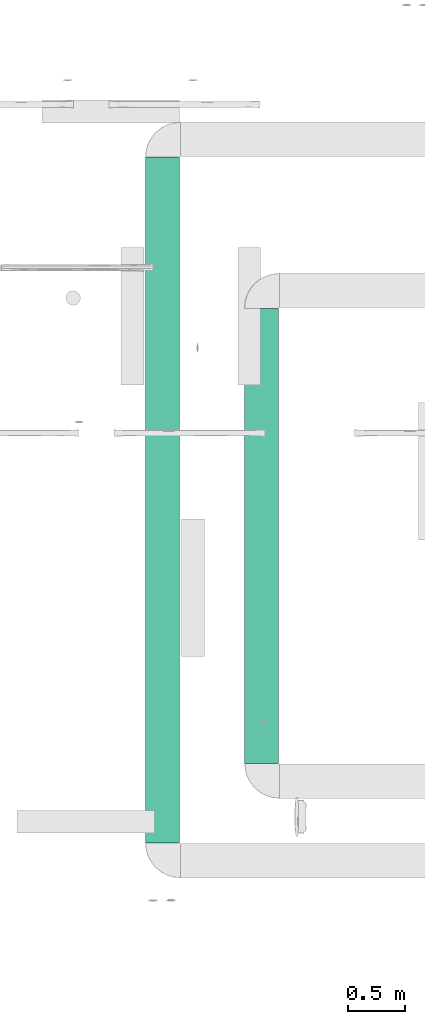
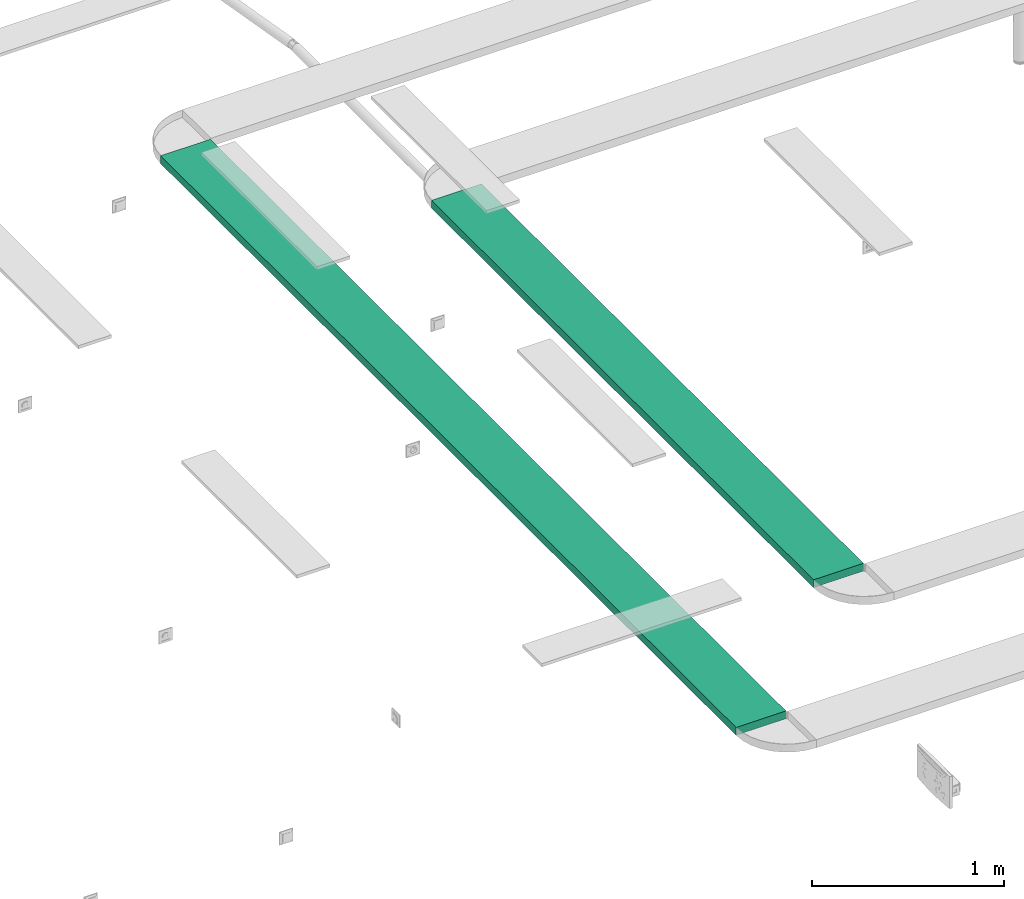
# One storey, part 3 of 153: 2 flow segments.
"""IFC2X3 building model written with IfcOpenShell, lengths in metres."""

from ifc_helpers import new_model, entity, si_unit, converted_unit, derived_unit, direction, frame, frame_2d, origin, origin_2d_with_axis, place, context, subcontext, project, spatial, rectangle, extrude, type_object, element, save


model = new_model("IFC2X3")

# Units and contexts
model_context = context("Model", 3, precision=1e-05, world=origin(), true_north=direction((6.12303176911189e-17, 1.0)))
body_context = subcontext(model_context, "Body", "Model", "MODEL_VIEW")
ifc_project = project(units=[si_unit("LENGTHUNIT", "METRE"), si_unit("AREAUNIT", "SQUARE_METRE"), si_unit("VOLUMEUNIT", "CUBIC_METRE"), converted_unit("PLANEANGLEUNIT", "DEGREE", entity("IfcRatioMeasure", 0.0174532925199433), si_unit("PLANEANGLEUNIT", "RADIAN"), dimensions=[0, 0, 0, 0, 0, 0, 0]), si_unit("MASSUNIT", "GRAM", prefix="KILO"), derived_unit("MASSDENSITYUNIT", [(si_unit("MASSUNIT", "GRAM", prefix="KILO"), 1), (si_unit("LENGTHUNIT", "METRE"), -3)]), si_unit("TIMEUNIT", "SECOND"), si_unit("FREQUENCYUNIT", "HERTZ"), si_unit("THERMODYNAMICTEMPERATUREUNIT", "DEGREE_CELSIUS"), derived_unit("THERMALTRANSMITTANCEUNIT", [(si_unit("MASSUNIT", "GRAM", prefix="KILO"), 1), (si_unit("THERMODYNAMICTEMPERATUREUNIT", "KELVIN"), -1), (si_unit("TIMEUNIT", "SECOND"), -3)]), derived_unit("VOLUMETRICFLOWRATEUNIT", [(si_unit("LENGTHUNIT", "METRE"), 3), (si_unit("TIMEUNIT", "SECOND"), -1)]), si_unit("ELECTRICCURRENTUNIT", "AMPERE"), si_unit("ELECTRICVOLTAGEUNIT", "VOLT"), si_unit("POWERUNIT", "WATT"), si_unit("FORCEUNIT", "NEWTON"), si_unit("ILLUMINANCEUNIT", "LUX"), si_unit("LUMINOUSFLUXUNIT", "LUMEN"), si_unit("LUMINOUSINTENSITYUNIT", "CANDELA"), derived_unit("USERDEFINED", [(si_unit("MASSUNIT", "GRAM", prefix="KILO"), -1), (si_unit("LENGTHUNIT", "METRE"), -2), (si_unit("TIMEUNIT", "SECOND"), 3), (si_unit("LUMINOUSFLUXUNIT", "LUMEN"), 1)]), derived_unit("LINEARVELOCITYUNIT", [(si_unit("LENGTHUNIT", "METRE"), 1), (si_unit("TIMEUNIT", "SECOND"), -1)]), si_unit("PRESSUREUNIT", "PASCAL"), derived_unit("USERDEFINED", [(si_unit("LENGTHUNIT", "METRE"), -2), (si_unit("MASSUNIT", "GRAM", prefix="KILO"), 1), (si_unit("TIMEUNIT", "SECOND"), -2)])], contexts=[model_context])

# Site, building, storey
site_placement = place(None, origin())
site = spatial("IfcSite", under=ifc_project, at=site_placement, Name="Default", CompositionType="ELEMENT")
building_placement = place(site_placement, origin())
building = spatial("IfcBuilding", under=site, at=building_placement, CompositionType="ELEMENT")
storey_placement = place(building_placement, frame((0.0, 0.0, -4.62)))
storey = spatial("IfcBuildingStorey", under=building, at=storey_placement, Name="S02", CompositionType="ELEMENT", Elevation=-4.62)

# Flow segments
cable_carrier_segment_type = type_object("IfcCableCarrierSegmentType", Name="Cable Tray with Fittings:Chemins de câbles en treillis_Chemins de câbles en treillis", PredefinedType="NOTDEFINED")
flow_segment_1_placement = place(storey_placement, origin())
element("IfcFlowSegment", 1, at=flow_segment_1_placement, inside=storey, type_object=cable_carrier_segment_type, Name="Cable Tray with Fittings:Chemins de câbles en treillis_Chemins de câbles en treillis", ObjectType="Cable Tray with Fittings:Chemins de câbles en treillis_Chemins de câbles en treillis", context=body_context, shape_type="SweptSolid", body=[
    extrude(rectangle(XDim=3.97459030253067, YDim=0.300000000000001, at=origin_2d_with_axis()), frame((37.0993394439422, -191.553764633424, 3.764), z_axis=(0.0, 0.0, 1.0), x_axis=(0.0, -1.0, 0.0)), (0.0, 0.0, 1.0), 0.05),
])
flow_segment_2_placement = place(storey_placement, origin())
element("IfcFlowSegment", 2, at=flow_segment_2_placement, inside=storey, type_object=cable_carrier_segment_type, Name="Cable Tray with Fittings:Chemins de câbles en treillis_Chemins de câbles en treillis", ObjectType="Cable Tray with Fittings:Chemins de câbles en treillis_Chemins de câbles en treillis", context=body_context, shape_type="SweptSolid", body=[
    extrude(rectangle(XDim=5.98814084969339, YDim=0.299999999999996, at=frame_2d((1.73194791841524e-14, 0.0), x_axis=(1.0, 0.0))), frame((36.2335642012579, -191.240764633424, 3.54999980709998), z_axis=(-1.23590478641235e-06, 0.0, 1.0), x_axis=(0.0, 1.0, 0.0)), (0.0, 0.0, 1.0), 0.05),
])

save(model, "model.ifc")
